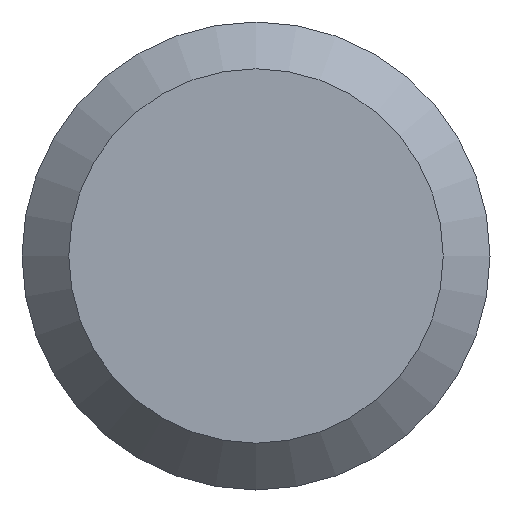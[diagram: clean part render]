
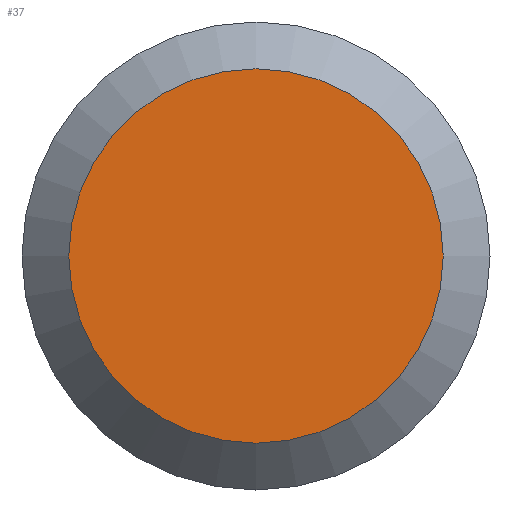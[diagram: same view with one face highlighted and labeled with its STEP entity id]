
A CAD part, left-side view. The second image highlights one B-rep face of the part: STEP entity #37.
In plain terms, the highlighted planar face has unit normal (-1, 0, 0).
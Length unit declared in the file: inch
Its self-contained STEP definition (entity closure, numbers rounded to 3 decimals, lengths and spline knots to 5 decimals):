
#4 = DIRECTION ( 'NONE',  ( -1., 0., 0. ) ) ;
#13 = ORIENTED_EDGE ( 'NONE', *, *, #91, .T. ) ;
#14 = DIRECTION ( 'NONE',  ( 0., 0., -1. ) ) ;
#21 = DIRECTION ( 'NONE',  ( 0., 0., -1. ) ) ;
#25 = PLANE ( 'NONE',  #108 ) ;
#32 = CARTESIAN_POINT ( 'NONE',  ( 0., 0.1985, 0. ) ) ;
#37 = ADVANCED_FACE ( 'NONE', ( #194 ), #25, .F. ) ;
#54 = CARTESIAN_POINT ( 'NONE',  ( 0., 0., 0. ) ) ;
#86 = EDGE_LOOP ( 'NONE', ( #13 ) ) ;
#91 = EDGE_CURVE ( 'NONE', #190, #190, #112, .T. ) ;
#95 = DIRECTION ( 'NONE',  ( 1., 0., 0. ) ) ;
#108 = AXIS2_PLACEMENT_3D ( 'NONE', #32, #95, #14 ) ;
#112 = CIRCLE ( 'NONE', #133, 0.1588 ) ;
#133 = AXIS2_PLACEMENT_3D ( 'NONE', #54, #4, #21 ) ;
#190 = VERTEX_POINT ( 'NONE', #234 ) ;
#194 = FACE_OUTER_BOUND ( 'NONE', #86, .T. ) ;
#234 = CARTESIAN_POINT ( 'NONE',  ( 0., 0., -0.1588 ) ) ;
